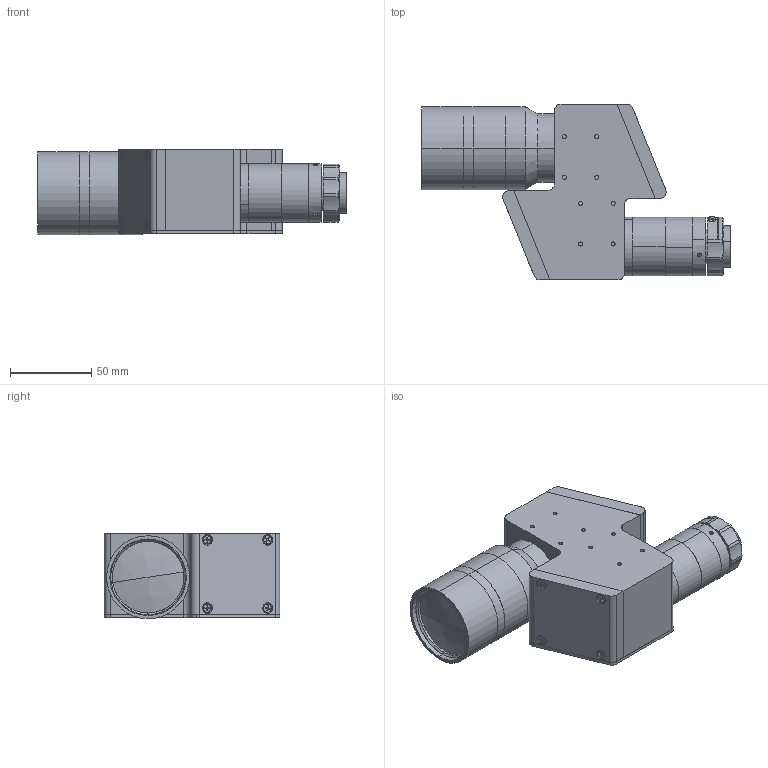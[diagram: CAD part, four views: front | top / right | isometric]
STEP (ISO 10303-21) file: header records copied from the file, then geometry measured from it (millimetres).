
FILE_DESCRIPTION (( 'STEP AP203' ), '1' );
FILE_NAME ('XF-MH06X513.STEP', '2020-08-24T07:18:37', ( 'canrill-02' ), ( '' ), 'SwSTEP 2.0', 'SolidWorks 2014', '' );
FILE_SCHEMA (( 'CONFIG_CONTROL_DESIGN' ));
Length unit declared in the file: millimetre
Products named in the file (1): XF-MH06X513
Bounding box: 189.58 x 108 x 52.5 mm (x, y, z)
Surface area: 70280.8 mm2 (no closed solid volume)
Topology: 0 solids, 33 shells, 415 faces, 1329 edges, 924 vertices
Faces by surface type: plane 208, cylinder 158, cone 45, sphere 2, torus 2
Entity records: 15020 total; most frequent: CARTESIAN_POINT 3000, DIRECTION 2617, ORIENTED_EDGE 2180, EDGE_CURVE 1327, VERTEX_POINT 924, AXIS2_PLACEMENT_3D 901, LINE 815, VECTOR 815
